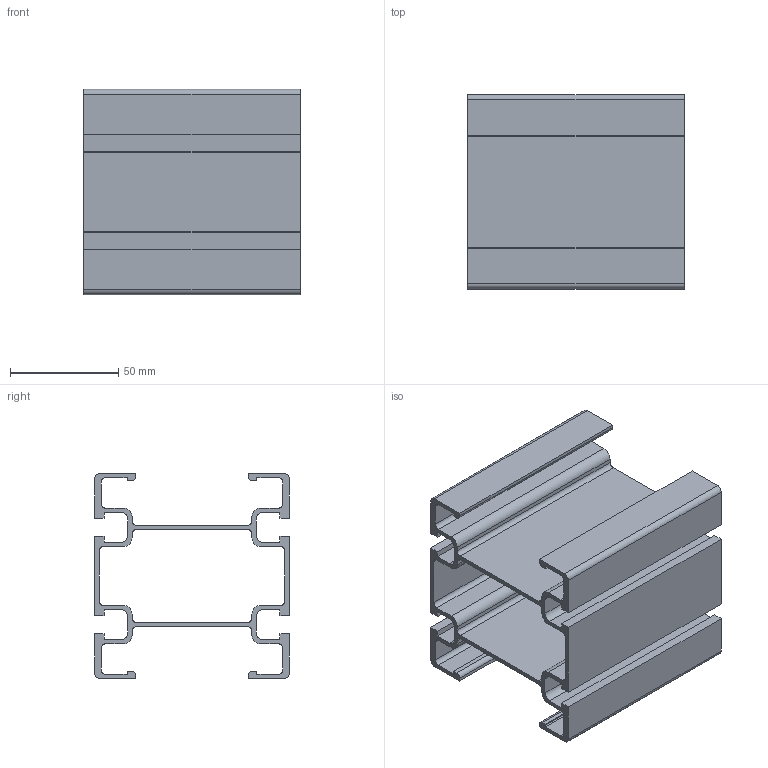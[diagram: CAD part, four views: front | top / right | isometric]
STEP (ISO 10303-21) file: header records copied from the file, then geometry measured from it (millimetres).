
FILE_DESCRIPTION (( 'STEP AP214' ), '1' );
FILE_NAME ('800.100.002.STEP', '2020-07-23T09:00:25', ( '' ), ( '' ), 'SwSTEP 2.0', 'SolidWorks 2018', '' );
FILE_SCHEMA (( 'AUTOMOTIVE_DESIGN' ));
Length unit declared in the file: millimetre
Products named in the file (1): 800.100.002
Bounding box: 100 x 90 x 95 mm (x, y, z)
Volume: 115427.2 mm3; surface area: 100503.2 mm2
Topology: 1 solids, 1 shells, 130 faces, 384 edges, 256 vertices
Faces by surface type: plane 82, cylinder 48
Entity records: 4382 total; most frequent: CARTESIAN_POINT 771, ORIENTED_EDGE 768, DIRECTION 742, EDGE_CURVE 384, VECTOR 288, LINE 288, VERTEX_POINT 256, AXIS2_PLACEMENT_3D 227
